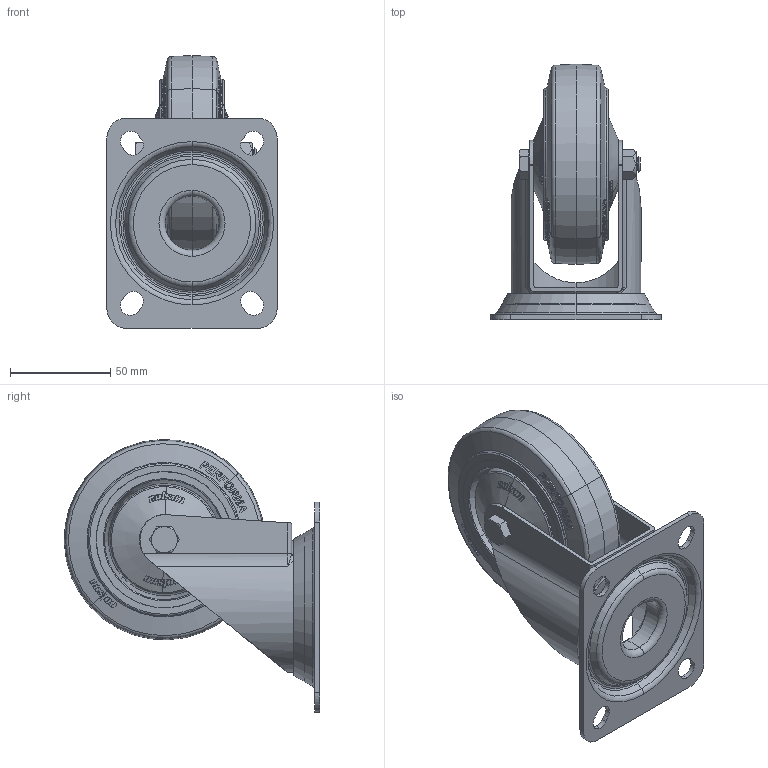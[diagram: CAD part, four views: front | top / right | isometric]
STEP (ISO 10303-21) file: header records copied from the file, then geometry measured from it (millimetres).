
FILE_DESCRIPTION (( 'STEP AP214' ), '1' );
FILE_NAME ('JPPR 1001 5100.STEP', '2018-12-12T07:55:07', ( '' ), ( '' ), 'SwSTEP 2.0', 'SolidWorks 2018', '' );
FILE_SCHEMA (( 'AUTOMOTIVE_DESIGN' ));
Length unit declared in the file: millimetre
Products named in the file (13): torque nut 06_iso_ISO 7719-M8-S; hex bolt gradeab_iso1_ISO 4014 - M8 x 55 x 22-S; roulement_6202-2rsl_2_04; WPPR 1002 5080; roulement_6202-2rsl_2_05; CAP_55N42B8_GREY_P; roulement_6202-2rsl_2_01; roulement_6202-2rsl_2_02; WPPR 1002; roulement_6202-2rsl_2_03; JPPR 1001 5100; 6202-2RS; JPEW 1001 0100_1
Assembly tree (13 placements, depth 4):
  JPPR 1001 5100
    JPEW 1001 0100_1
    WPPR 1002 5080
      WPPR 1002
      6202-2RS
        roulement_6202-2rsl_2_01
        roulement_6202-2rsl_2_02
        roulement_6202-2rsl_2_03
        roulement_6202-2rsl_2_04
        roulement_6202-2rsl_2_05
      CAP_55N42B8_GREY_P  x2
    hex bolt gradeab_iso1_ISO 4014 - M8 x 55 x 22-S
    torque nut 06_iso_ISO 7719-M8-S
Bounding box: 85 x 127.48 x 136.21 mm (x, y, z)
Volume: 253832.2 mm3; surface area: 106324.8 mm2
Topology: 63 solids, 63 shells, 2164 faces, 5577 edges, 3621 vertices
Faces by surface type: plane 834, bspline 700, cone 290, cylinder 188, torus 136, sphere 16
Entity records: 89337 total; most frequent: CARTESIAN_POINT 46286, ORIENTED_EDGE 9522, DIRECTION 6165, EDGE_CURVE 4761, VERTEX_POINT 3091, AXIS2_PLACEMENT_3D 2102, EDGE_LOOP 2032, B_SPLINE_CURVE_WITH_KNOTS 1988
